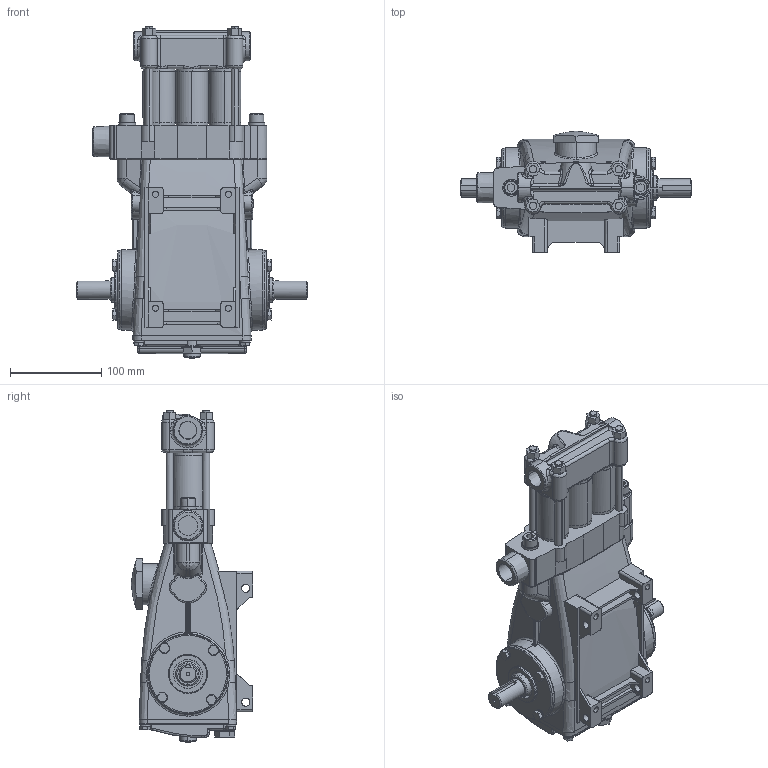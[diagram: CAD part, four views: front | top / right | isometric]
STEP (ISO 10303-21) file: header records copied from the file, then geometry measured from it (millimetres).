
FILE_DESCRIPTION (( 'STEP AP214' ), '1' );
FILE_NAME ('390.STEP', '2017-09-22T13:30:23', ( '' ), ( '' ), 'SwSTEP 2.0', 'SolidWorks 2017', '' );
FILE_SCHEMA (( 'AUTOMOTIVE_DESIGN' ));
Length unit declared in the file: millimetre
Products named in the file (1): 390
Bounding box: 254 x 133.35 x 364.22 mm (x, y, z)
Surface area: 249064.3 mm2 (no closed solid volume)
Topology: 0 solids, 11 shells, 938 faces, 2375 edges, 1482 vertices
Faces by surface type: plane 413, cylinder 305, bspline 190, cone 30
Entity records: 67511 total; most frequent: CARTESIAN_POINT 47469, ORIENTED_EDGE 4693, DIRECTION 3247, EDGE_CURVE 2365, VERTEX_POINT 1482, AXIS2_PLACEMENT_3D 1103, VECTOR 1041, LINE 1041
